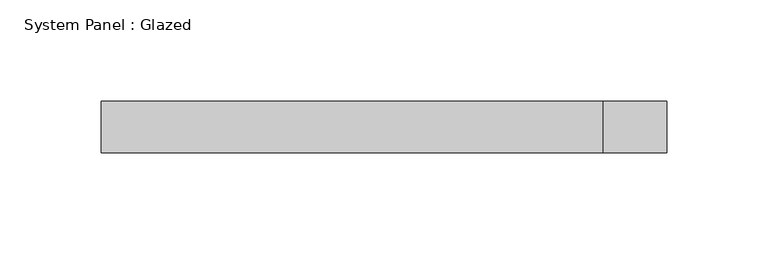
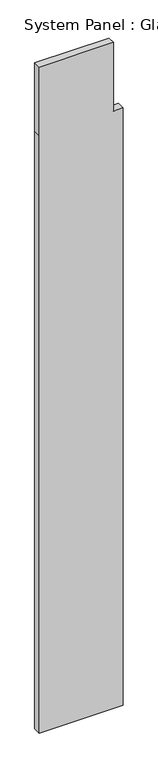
"""IFC4 building model written with IfcOpenShell, lengths in millimetres: plate geometry, System Panel : Glazed."""

from ifc_helpers import new_model, si_unit, frame, origin, place, context, project, spatial, polyline, outline, extrude, source, transform, mapped, element, save


def system_panel_glazed_b71afb28(model_context):
    return source(origin(), model_context, "Body", "SweptSolid", [
        extrude(outline(polyline([(0.0, -139.7), (0.0, 139.7), (2101.85, 139.7), (2101.85, 107.95), (2343.15, 107.95), (2343.15, -139.7), (2101.85, -139.7), (0.0, -139.7)])), frame((0.0, -44.45, 0.0), z_axis=(0.0, 1.0, 0.0), x_axis=(0.0, 0.0, 1.0)), (0.0, 0.0, 1.0), 25.4),
    ])


if __name__ == "__main__":
    model = new_model("IFC4")
    model_context = context("Model", 3, world=origin())
    ifc_project = project(units=[si_unit("LENGTHUNIT", "METRE", prefix="MILLI")], contexts=[model_context])
    site = spatial("IfcSite", under=ifc_project)
    building = spatial("IfcBuilding", under=site)
    placement = place(None, origin())
    system_panel_glazed_shape = system_panel_glazed_b71afb28(model_context)
    element("IfcPlate", 1, ObjectType="System Panel : Glazed", at=placement, inside=building, context=model_context, shape_type="MappedRepresentation", body=[
        mapped(system_panel_glazed_shape, transform((0.0, 0.0, 0.0), x_axis=(1.0, 0.0, 0.0), y_axis=(0.0, 1.0, 0.0), z_axis=(0.0, 0.0, 1.0))),
    ])
    save(model, "model.ifc")
